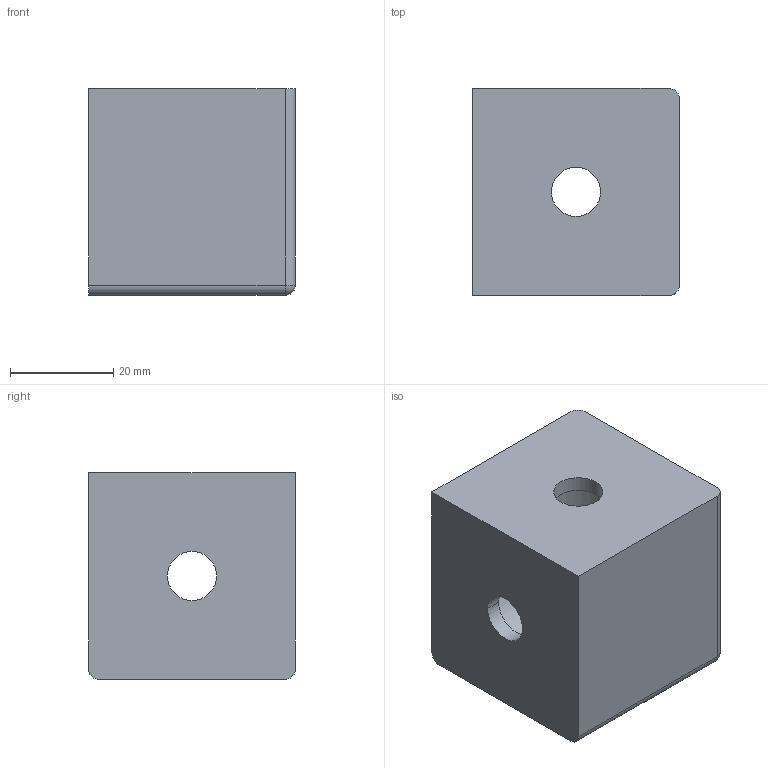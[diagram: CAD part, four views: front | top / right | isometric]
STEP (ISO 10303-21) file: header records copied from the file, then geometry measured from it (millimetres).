
FILE_DESCRIPTION (( 'STEP AP203' ), '1' );
FILE_NAME ('2070.STEP', '2016-09-15T19:18:10', ( '' ), ( '' ), 'SwSTEP 2.0', 'SolidWorks 2014', '' );
FILE_SCHEMA (( 'CONFIG_CONTROL_DESIGN' ));
Length unit declared in the file: millimetre
Products named in the file (1): 2070
Bounding box: 40 x 40 x 40 mm (x, y, z)
Volume: 49179.5 mm3; surface area: 12162.7 mm2
Topology: 1 solids, 1 shells, 27 faces, 65 edges, 38 vertices
Faces by surface type: cylinder 17, plane 8, sphere 2
Entity records: 856 total; most frequent: CARTESIAN_POINT 153, DIRECTION 137, ORIENTED_EDGE 126, EDGE_CURVE 63, AXIS2_PLACEMENT_3D 54, VERTEX_POINT 38, EDGE_LOOP 33, LINE 29
